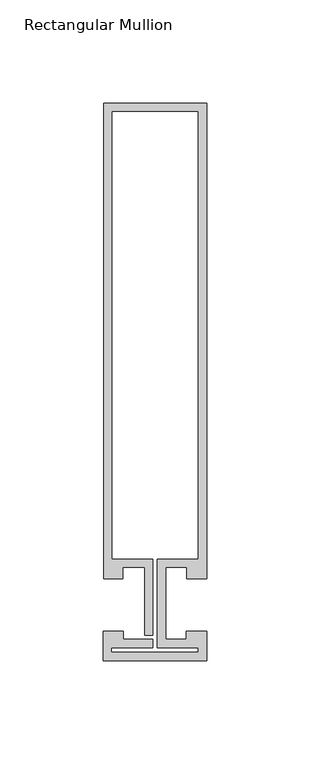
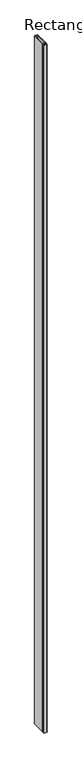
"""IFC4 building model written with IfcOpenShell, lengths in millimetres: member geometry, Rectangular Mullion : Reynaers_CW-50_Transom-Transom_230.5mm_Facecap-02A."""

from ifc_helpers import new_model, si_unit, frame, origin, place, context, project, spatial, polyline, outline, extrude, source, transform, mapped, element, save


def rectangular_mullion_68ce5020(model_context):
    return source(origin(), model_context, "Body", "SweptSolid", [
        extrude(outline(polyline([(25.1995941, -12.7331291), (25.1995941, -27.0331291), (-24.994845, -27.0331291), (-24.994845, -12.7331291), (-15.2996495, -12.7331291), (-15.2996495, -16.7331291), (-0.9004059, -16.7331291), (-0.9004059, -20.7331291), (-20.994845, -20.7331291), (-20.994845, -23.0331291), (21.1995941, -23.0331291), (21.1995941, -20.7331291), (1.2995941, -20.7331291), (1.2995941, 22.1331291), (21.1995941, 22.1331291), (21.1995941, 239.2331291), (-20.8004059, 239.2331291), (-20.8004059, 22.1331291), (-0.9004059, 22.1331291), (-0.9004059, -14.7331291), (-4.9004059, -14.7331291), (-4.9004059, 18.1331291), (-15.499, 18.1331291), (-15.499, 12.7331291), (-24.8004059, 12.7331291), (-24.8004059, 243.2331291), (25.1995941, 243.2331291), (25.1995941, 12.7331291), (15.499, 12.7331291), (15.499, 18.1331291), (5.2995941, 18.1331291), (5.2995941, -16.7331291), (15.2996495, -16.7331291), (15.2996495, -12.7331291), (25.1995941, -12.7331291)])), frame((0.0, 0.0, -12000.0), z_axis=(0.0, 0.0, 1.0), x_axis=(1.0, 0.0, 0.0)), (0.0, 0.0, 1.0), 12000.0),
    ])


if __name__ == "__main__":
    model = new_model("IFC4")
    model_context = context("Model", 3, world=origin())
    ifc_project = project(units=[si_unit("LENGTHUNIT", "METRE", prefix="MILLI")], contexts=[model_context])
    site = spatial("IfcSite", under=ifc_project)
    building = spatial("IfcBuilding", under=site)
    placement = place(None, origin())
    rectangular_mullion_shape = rectangular_mullion_68ce5020(model_context)
    element("IfcMember", 1, ObjectType="Rectangular Mullion : Reynaers_CW-50_Transom-Transom_230.5mm_Facecap-02A", at=placement, inside=building, context=model_context, shape_type="MappedRepresentation", body=[
        mapped(rectangular_mullion_shape, transform((0.0, 0.0, 0.0), x_axis=(1.0, 0.0, 0.0), y_axis=(0.0, 1.0, 0.0), z_axis=(0.0, 0.0, 1.0))),
    ])
    save(model, "model.ifc")
